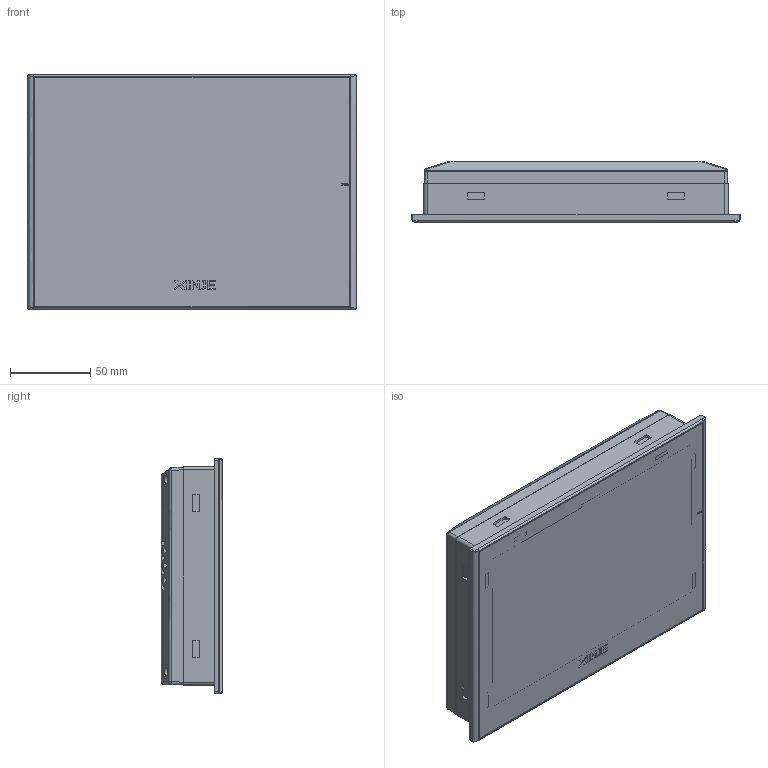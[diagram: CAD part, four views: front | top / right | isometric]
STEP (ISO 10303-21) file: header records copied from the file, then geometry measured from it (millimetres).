
FILE_DESCRIPTION(/* description */ (''),/* implementation_level */ '2;1');
FILE_NAME(/* name */ 'TG765G~2',/* time_stamp */ '2023-04-10T15:30:36+08:00',/* author */ (''),/* organization */ (''),/* preprocessor_version */ 'ST-DEVELOPER v16.5',/* originating_system */ '',/* authorisation */ '');
FILE_SCHEMA (('AUTOMOTIVE_DESIGN'));
Length unit declared in the file: millimetre
Products named in the file (1): Document
Bounding box: 205.4 x 38.46 x 146.5 mm (x, y, z)
Volume: 11295.6 mm3; surface area: 185694.8 mm2
Topology: 1 solids, 11 shells, 1471 faces, 4230 edges, 2784 vertices
Faces by surface type: plane 1144, bspline 327
Entity records: 53646 total; most frequent: CARTESIAN_POINT 25688, ORIENTED_EDGE 8427, EDGE_CURVE 4221, B_SPLINE_CURVE_WITH_KNOTS 3937, VERTEX_POINT 2779, EDGE_LOOP 1712, ADVANCED_FACE 1471, FACE_OUTER_BOUND 1471
